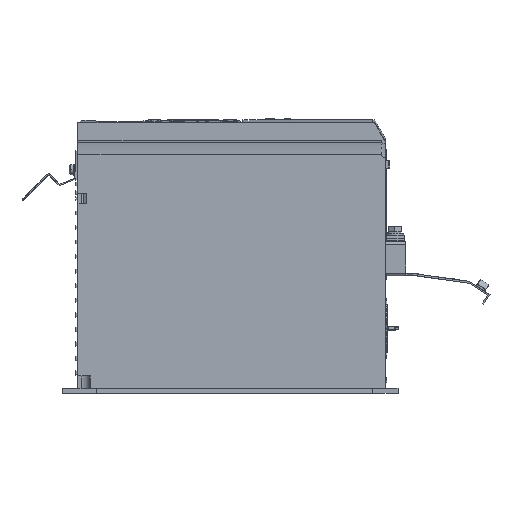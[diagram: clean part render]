
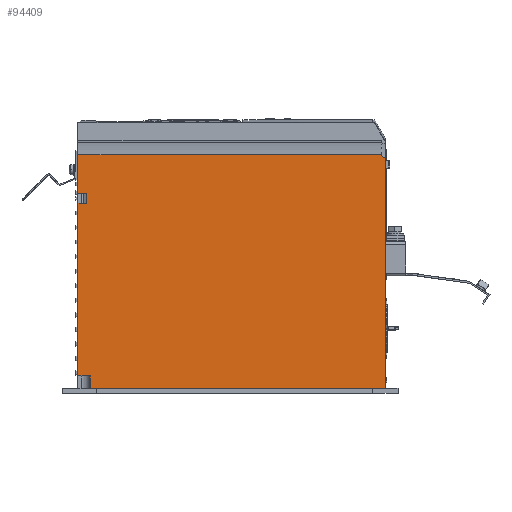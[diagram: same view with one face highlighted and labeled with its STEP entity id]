
A CAD part, left-side view. The second image highlights one B-rep face of the part: STEP entity #94409.
In plain terms, the highlighted planar face has unit normal (-1, 0, 0).
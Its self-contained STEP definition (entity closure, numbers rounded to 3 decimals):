
#24193=DIRECTION('',(0.,0.,-1.));
#24194=VECTOR('',#24193,183.383);
#24195=CARTESIAN_POINT('',(-130.54,-257.75,187.383));
#24196=LINE('',#24195,#24194);
#24200=DIRECTION('',(0.,1.,0.));
#24201=VECTOR('',#24200,235.5);
#24202=CARTESIAN_POINT('',(-130.54,-257.75,4.));
#24203=LINE('',#24202,#24201);
#24207=DIRECTION('',(0.,0.,-1.));
#24208=VECTOR('',#24207,9.9);
#24209=CARTESIAN_POINT('',(-130.54,-22.25,13.9));
#24210=LINE('',#24209,#24208);
#24214=CARTESIAN_POINT('',(-130.54,-21.9,13.9));
#24215=DIRECTION('',(1.,0.,0.));
#24216=DIRECTION('',(0.,0.,1.));
#24217=AXIS2_PLACEMENT_3D('',#24214,#24215,#24216);
#24222=DIRECTION('',(0.,-1.,0.));
#24223=VECTOR('',#24222,9.65);
#24224=CARTESIAN_POINT('',(-130.54,-12.25,14.25));
#24225=LINE('',#24224,#24223);
#24229=DIRECTION('',(0.,0.,1.));
#24230=VECTOR('',#24229,137.75);
#24231=CARTESIAN_POINT('',(-130.54,-12.25,14.25));
#24232=LINE('',#24231,#24230);
#24236=DIRECTION('',(0.,-1.,0.));
#24237=VECTOR('',#24236,6.75);
#24238=CARTESIAN_POINT('',(-130.54,-12.25,152.));
#24239=LINE('',#24238,#24237);
#24243=DIRECTION('',(0.,0.,-1.));
#24244=VECTOR('',#24243,8.);
#24245=CARTESIAN_POINT('',(-130.54,-19.,160.));
#24246=LINE('',#24245,#24244);
#24250=DIRECTION('',(0.,-1.,0.));
#24251=VECTOR('',#24250,6.75);
#24252=CARTESIAN_POINT('',(-130.54,-12.25,160.));
#24253=LINE('',#24252,#24251);
#24257=DIRECTION('',(0.,0.,1.));
#24258=VECTOR('',#24257,30.514);
#24259=CARTESIAN_POINT('',(-130.54,-12.25,160.));
#24260=LINE('',#24259,#24258);
#24264=DIRECTION('',(0.,-1.,0.));
#24265=VECTOR('',#24264,242.342);
#24266=CARTESIAN_POINT('',(-130.54,-12.25,190.514));
#24267=LINE('',#24266,#24265);
#24271=CARTESIAN_POINT('',(-130.54,-254.592,190.514));
#24272=CARTESIAN_POINT('',(-130.54,-254.598,190.514));
#24273=CARTESIAN_POINT('',(-130.54,-254.612,190.513));
#24274=CARTESIAN_POINT('',(-130.54,-254.632,190.51));
#24275=CARTESIAN_POINT('',(-130.54,-254.652,190.506));
#24276=CARTESIAN_POINT('',(-130.54,-254.673,190.5));
#24277=CARTESIAN_POINT('',(-130.54,-254.694,190.491));
#24278=CARTESIAN_POINT('',(-130.54,-254.716,190.479));
#24279=CARTESIAN_POINT('',(-130.54,-254.74,190.463));
#24280=CARTESIAN_POINT('',(-130.54,-254.755,190.45));
#24281=CARTESIAN_POINT('',(-130.54,-254.763,190.442));
#24286=CARTESIAN_POINT('',(-130.54,-254.763,190.442));
#24287=CARTESIAN_POINT('',(-130.54,-255.088,190.122));
#24288=CARTESIAN_POINT('',(-130.54,-255.737,189.482));
#24289=CARTESIAN_POINT('',(-130.54,-256.706,188.526));
#24290=CARTESIAN_POINT('',(-130.54,-257.35,187.891));
#24291=CARTESIAN_POINT('',(-130.54,-257.671,187.573));
#24296=CARTESIAN_POINT('',(-130.54,-257.671,187.573));
#24297=CARTESIAN_POINT('',(-130.54,-257.677,187.568));
#24298=CARTESIAN_POINT('',(-130.54,-257.687,187.557));
#24299=CARTESIAN_POINT('',(-130.54,-257.701,187.54));
#24300=CARTESIAN_POINT('',(-130.54,-257.713,187.521));
#24301=CARTESIAN_POINT('',(-130.54,-257.724,187.499));
#24302=CARTESIAN_POINT('',(-130.54,-257.734,187.476));
#24303=CARTESIAN_POINT('',(-130.54,-257.743,187.449));
#24304=CARTESIAN_POINT('',(-130.54,-257.748,187.418));
#24305=CARTESIAN_POINT('',(-130.54,-257.75,187.395));
#24306=CARTESIAN_POINT('',(-130.54,-257.75,187.383));
#59213=CARTESIAN_POINT('',(-130.54,-12.25,14.25));
#59214=CARTESIAN_POINT('',(-130.54,-12.25,152.));
#59215=VERTEX_POINT('',#59213);
#59216=VERTEX_POINT('',#59214);
#59217=CARTESIAN_POINT('',(-130.54,-22.25,4.));
#59219=VERTEX_POINT('',#59217);
#59223=CARTESIAN_POINT('',(-130.54,-22.25,13.9));
#59224=VERTEX_POINT('',#59223);
#59225=CARTESIAN_POINT('',(-130.54,-21.9,14.25));
#59226=VERTEX_POINT('',#59225);
#59251=CARTESIAN_POINT('',(-130.54,-257.75,4.));
#59253=VERTEX_POINT('',#59251);
#59254=CARTESIAN_POINT('',(-130.54,-257.75,187.383));
#59255=VERTEX_POINT('',#59254);
#59272=VERTEX_POINT('',#24271);
#59273=VERTEX_POINT('',#24281);
#59274=VERTEX_POINT('',#24291);
#59954=CARTESIAN_POINT('',(-130.54,-19.,160.));
#59955=CARTESIAN_POINT('',(-130.54,-19.,152.));
#59956=VERTEX_POINT('',#59954);
#59957=VERTEX_POINT('',#59955);
#60008=CARTESIAN_POINT('',(-130.54,-12.25,160.));
#60010=VERTEX_POINT('',#60008);
#60014=CARTESIAN_POINT('',(-130.54,-12.25,190.514));
#60015=VERTEX_POINT('',#60014);
#94377=CARTESIAN_POINT('',(-130.54,-258.,4.));
#94378=DIRECTION('',(-1.,0.,0.));
#94379=DIRECTION('',(0.,0.,1.));
#94380=AXIS2_PLACEMENT_3D('',#94377,#94378,#94379);
#94381=PLANE('',#94380);
#94382=ORIENTED_EDGE('',*,*,#65446,.T.);
#94383=ORIENTED_EDGE('',*,*,#65482,.T.);
#94385=ORIENTED_EDGE('',*,*,#94384,.F.);
#94387=ORIENTED_EDGE('',*,*,#94386,.F.);
#94389=ORIENTED_EDGE('',*,*,#94388,.F.);
#94391=ORIENTED_EDGE('',*,*,#94390,.T.);
#94393=ORIENTED_EDGE('',*,*,#94392,.T.);
#94395=ORIENTED_EDGE('',*,*,#94394,.F.);
#94397=ORIENTED_EDGE('',*,*,#94396,.F.);
#94399=ORIENTED_EDGE('',*,*,#94398,.T.);
#94401=ORIENTED_EDGE('',*,*,#94400,.T.);
#94403=ORIENTED_EDGE('',*,*,#94402,.T.);
#94405=ORIENTED_EDGE('',*,*,#94404,.T.);
#94406=ORIENTED_EDGE('',*,*,#94362,.T.);
#94407=EDGE_LOOP('',(#94382,#94383,#94385,#94387,#94389,#94391,#94393,#94395,
#94397,#94399,#94401,#94403,#94405,#94406));
#94408=FACE_OUTER_BOUND('',#94407,.F.);
#94409=ADVANCED_FACE('',(#94408),#94381,.T.);
#24218=CIRCLE('',#24217,0.35);
#24282=B_SPLINE_CURVE_WITH_KNOTS('',3,(#24271,#24272,#24273,#24274,#24275,
#24276,#24277,#24278,#24279,#24280,#24281),.UNSPECIFIED.,.F.,.F.,(4,1,1,1,1,1,1,
1,4),(0.,0.125,0.25,0.375,0.5,0.625,0.75,0.875,1.),
.UNSPECIFIED.);
#24292=B_SPLINE_CURVE_WITH_KNOTS('',3,(#24286,#24287,#24288,#24289,#24290,
#24291),.UNSPECIFIED.,.F.,.F.,(4,1,1,4),(0.,0.333,
0.667,1.),.UNSPECIFIED.);
#24307=B_SPLINE_CURVE_WITH_KNOTS('',3,(#24296,#24297,#24298,#24299,#24300,
#24301,#24302,#24303,#24304,#24305,#24306),.UNSPECIFIED.,.F.,.F.,(4,1,1,1,1,1,1,
1,4),(0.,0.125,0.25,0.375,0.5,0.625,0.75,0.875,1.),
.UNSPECIFIED.);
#65446=EDGE_CURVE('',#59255,#59253,#24196,.T.);
#65482=EDGE_CURVE('',#59253,#59219,#24203,.T.);
#94362=EDGE_CURVE('',#59274,#59255,#24307,.T.);
#94384=EDGE_CURVE('',#59224,#59219,#24210,.T.);
#94386=EDGE_CURVE('',#59226,#59224,#24218,.T.);
#94388=EDGE_CURVE('',#59215,#59226,#24225,.T.);
#94390=EDGE_CURVE('',#59215,#59216,#24232,.T.);
#94392=EDGE_CURVE('',#59216,#59957,#24239,.T.);
#94394=EDGE_CURVE('',#59956,#59957,#24246,.T.);
#94396=EDGE_CURVE('',#60010,#59956,#24253,.T.);
#94398=EDGE_CURVE('',#60010,#60015,#24260,.T.);
#94400=EDGE_CURVE('',#60015,#59272,#24267,.T.);
#94402=EDGE_CURVE('',#59272,#59273,#24282,.T.);
#94404=EDGE_CURVE('',#59273,#59274,#24292,.T.);
